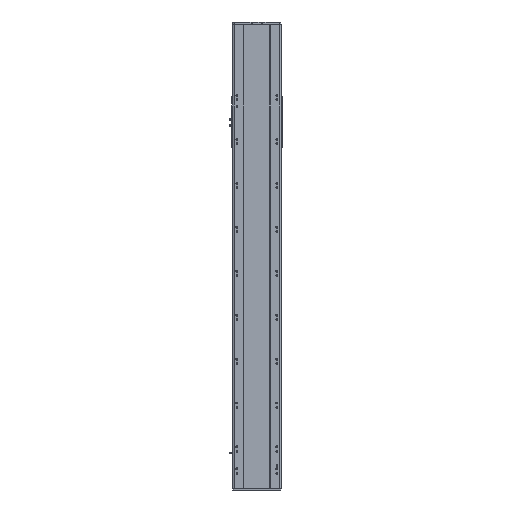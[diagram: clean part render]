
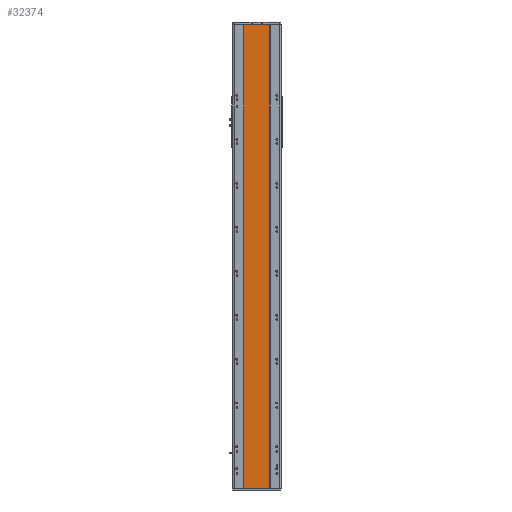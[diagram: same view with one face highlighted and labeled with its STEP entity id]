
A CAD part, front view. The second image highlights one B-rep face of the part: STEP entity #32374.
In plain terms, the highlighted planar face has unit normal (0, -1, 0).
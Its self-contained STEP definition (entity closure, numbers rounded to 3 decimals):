
#367 = LINE ( 'NONE', #504, #21883 ) ;
#504 = CARTESIAN_POINT ( 'NONE',  ( -59., 1., 1055.5 ) ) ;
#945 = DIRECTION ( 'NONE',  ( 1., 0., 0. ) ) ;
#4441 = VERTEX_POINT ( 'NONE', #10883 ) ;
#4883 = LINE ( 'NONE', #37838, #19557 ) ;
#8051 = EDGE_CURVE ( 'NONE', #22413, #38587, #20826, .T. ) ;
#9617 = CARTESIAN_POINT ( 'NONE',  ( 59., 1., 1055.5 ) ) ;
#10289 = DIRECTION ( 'NONE',  ( -1., 0., 0. ) ) ;
#10883 = CARTESIAN_POINT ( 'NONE',  ( -59., 1., -1055.5 ) ) ;
#11329 = ORIENTED_EDGE ( 'NONE', *, *, #29831, .F. ) ;
#13598 = DIRECTION ( 'NONE',  ( 0., 0., -1. ) ) ;
#13748 = LINE ( 'NONE', #17140, #40113 ) ;
#14142 = VERTEX_POINT ( 'NONE', #14198 ) ;
#14198 = CARTESIAN_POINT ( 'NONE',  ( 59., 1., -1055.5 ) ) ;
#15201 = FACE_OUTER_BOUND ( 'NONE', #20787, .T. ) ;
#15429 = VECTOR ( 'NONE', #21499, 1000. ) ;
#16610 = DIRECTION ( 'NONE',  ( 0., 1., 0. ) ) ;
#17140 = CARTESIAN_POINT ( 'NONE',  ( 59., 1., 1055.5 ) ) ;
#18732 = CARTESIAN_POINT ( 'NONE',  ( -59., 1., 1055.5 ) ) ;
#19386 = ORIENTED_EDGE ( 'NONE', *, *, #8051, .F. ) ;
#19490 = PLANE ( 'NONE',  #30597 ) ;
#19557 = VECTOR ( 'NONE', #945, 1000. ) ;
#20787 = EDGE_LOOP ( 'NONE', ( #39956, #11329, #19386, #23962 ) ) ;
#20826 = LINE ( 'NONE', #18732, #15429 ) ;
#21499 = DIRECTION ( 'NONE',  ( 1., 0., 0. ) ) ;
#21883 = VECTOR ( 'NONE', #22368, 1000. ) ;
#22368 = DIRECTION ( 'NONE',  ( 0., 0., -1. ) ) ;
#22413 = VERTEX_POINT ( 'NONE', #40457 ) ;
#23060 = EDGE_CURVE ( 'NONE', #22413, #4441, #367, .T. ) ;
#23962 = ORIENTED_EDGE ( 'NONE', *, *, #23060, .T. ) ;
#28638 = CARTESIAN_POINT ( 'NONE',  ( -59., 1., 1055.5 ) ) ;
#29831 = EDGE_CURVE ( 'NONE', #38587, #14142, #13748, .T. ) ;
#30597 = AXIS2_PLACEMENT_3D ( 'NONE', #28638, #16610, #10289 ) ;
#32374 = ADVANCED_FACE ( 'NONE', ( #15201 ), #19490, .F. ) ;
#37302 = EDGE_CURVE ( 'NONE', #4441, #14142, #4883, .T. ) ;
#37838 = CARTESIAN_POINT ( 'NONE',  ( -59., 1., -1055.5 ) ) ;
#38587 = VERTEX_POINT ( 'NONE', #9617 ) ;
#39956 = ORIENTED_EDGE ( 'NONE', *, *, #37302, .T. ) ;
#40113 = VECTOR ( 'NONE', #13598, 1000. ) ;
#40457 = CARTESIAN_POINT ( 'NONE',  ( -59., 1., 1055.5 ) ) ;
